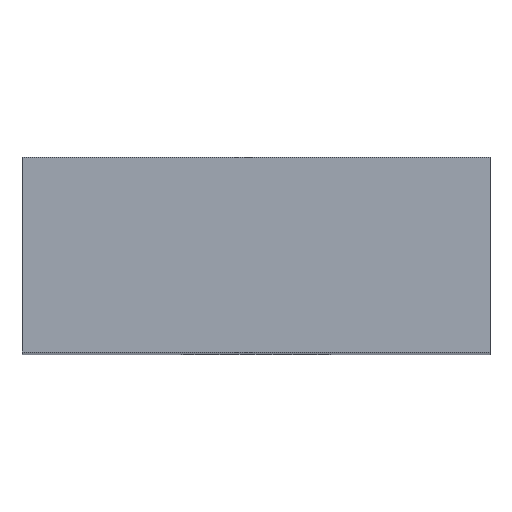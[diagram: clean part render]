
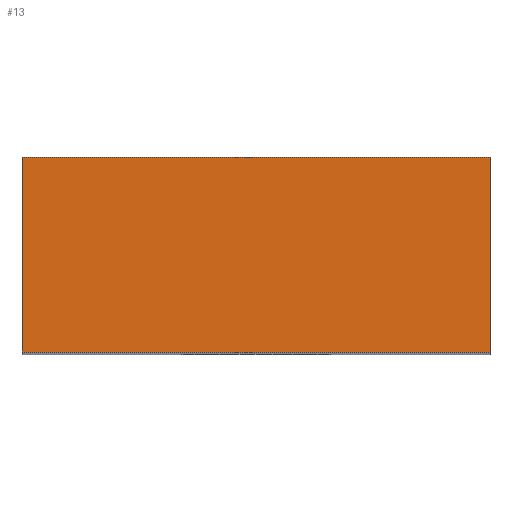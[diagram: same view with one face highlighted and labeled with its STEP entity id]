
A CAD part, top view. The second image highlights one B-rep face of the part: STEP entity #13.
In plain terms, the highlighted planar face has unit normal (0, 0, 1).
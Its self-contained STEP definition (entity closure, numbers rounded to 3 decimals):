
#13 = ADVANCED_FACE ( 'NONE', ( #183 ), #289, .F. ) ;
#29 = EDGE_CURVE ( 'NONE', #296, #67, #304, .T. ) ;
#30 = ORIENTED_EDGE ( 'NONE', *, *, #87, .T. ) ;
#38 = VECTOR ( 'NONE', #305, 1000. ) ;
#45 = CARTESIAN_POINT ( 'NONE',  ( 0., 25., 0. ) ) ;
#52 = VECTOR ( 'NONE', #76, 1000. ) ;
#60 = VERTEX_POINT ( 'NONE', #235 ) ;
#64 = CARTESIAN_POINT ( 'NONE',  ( 60., 25., 0. ) ) ;
#67 = VERTEX_POINT ( 'NONE', #89 ) ;
#73 = ORIENTED_EDGE ( 'NONE', *, *, #108, .F. ) ;
#74 = DIRECTION ( 'NONE',  ( -1., 0., 0. ) ) ;
#76 = DIRECTION ( 'NONE',  ( 0., -1., 0. ) ) ;
#87 = EDGE_CURVE ( 'NONE', #110, #60, #152, .T. ) ;
#89 = CARTESIAN_POINT ( 'NONE',  ( 60., 0., 0. ) ) ;
#102 = VECTOR ( 'NONE', #139, 1000. ) ;
#103 = LINE ( 'NONE', #45, #38 ) ;
#108 = EDGE_CURVE ( 'NONE', #110, #296, #103, .T. ) ;
#110 = VERTEX_POINT ( 'NONE', #133 ) ;
#113 = LINE ( 'NONE', #187, #102 ) ;
#132 = CARTESIAN_POINT ( 'NONE',  ( 0., 25., 0. ) ) ;
#133 = CARTESIAN_POINT ( 'NONE',  ( 0., 25., 0. ) ) ;
#135 = EDGE_LOOP ( 'NONE', ( #242, #310, #73, #30 ) ) ;
#139 = DIRECTION ( 'NONE',  ( 1., 0., 0. ) ) ;
#140 = DIRECTION ( 'NONE',  ( 0., 0., -1. ) ) ;
#152 = LINE ( 'NONE', #132, #278 ) ;
#158 = DIRECTION ( 'NONE',  ( 0., -1., 0. ) ) ;
#183 = FACE_OUTER_BOUND ( 'NONE', #135, .T. ) ;
#187 = CARTESIAN_POINT ( 'NONE',  ( 0., 0., 0. ) ) ;
#214 = CARTESIAN_POINT ( 'NONE',  ( 0., 25., 0. ) ) ;
#231 = AXIS2_PLACEMENT_3D ( 'NONE', #214, #140, #74 ) ;
#235 = CARTESIAN_POINT ( 'NONE',  ( 0., 0., 0. ) ) ;
#239 = EDGE_CURVE ( 'NONE', #60, #67, #113, .T. ) ;
#242 = ORIENTED_EDGE ( 'NONE', *, *, #239, .T. ) ;
#244 = CARTESIAN_POINT ( 'NONE',  ( 60., 25., 0. ) ) ;
#278 = VECTOR ( 'NONE', #158, 1000. ) ;
#289 = PLANE ( 'NONE',  #231 ) ;
#296 = VERTEX_POINT ( 'NONE', #64 ) ;
#304 = LINE ( 'NONE', #244, #52 ) ;
#305 = DIRECTION ( 'NONE',  ( 1., 0., 0. ) ) ;
#310 = ORIENTED_EDGE ( 'NONE', *, *, #29, .F. ) ;
